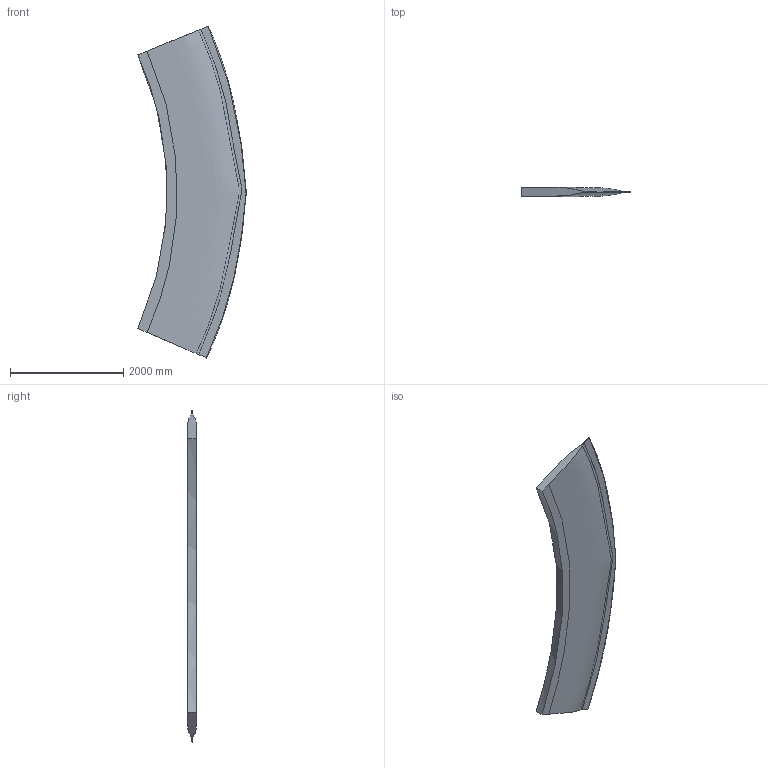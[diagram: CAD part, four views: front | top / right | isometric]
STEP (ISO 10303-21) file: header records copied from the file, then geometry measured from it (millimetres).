
FILE_DESCRIPTION(/* description */ (''),/* implementation_level */ '2;1');
FILE_NAME(/* name */ 'NTF_arc_sector_aft_fixed.stp',/* time_stamp */ '2024-10-10T12:12:13-04:00',/* author */ (''),/* organization */ (''),/* preprocessor_version */ 'ST-DEVELOPER v16.7',/* originating_system */ 'SIEMENS PLM Software NX 12.0',/* authorisation */ '');
FILE_SCHEMA (('AUTOMOTIVE_DESIGN { 1 0 10303 214 3 1 1 1 }'));
Length unit declared in the file: inch
Products named in the file (1): sbry159C74EA57gg
Bounding box: 1916.13 x 154.92 x 5869.44 mm (x, y, z)
Volume: 867870044.2 mm3; surface area: 16085751.1 mm2
Topology: 1 solids, 1 shells, 13 faces, 33 edges, 22 vertices
Faces by surface type: bspline 12, cylinder 1
Entity records: 6258 total; most frequent: CARTESIAN_POINT 6012, ORIENTED_EDGE 66, EDGE_CURVE 33, B_SPLINE_CURVE_WITH_KNOTS 33, VERTEX_POINT 22, ADVANCED_FACE 13, FACE_OUTER_BOUND 13, EDGE_LOOP 13
